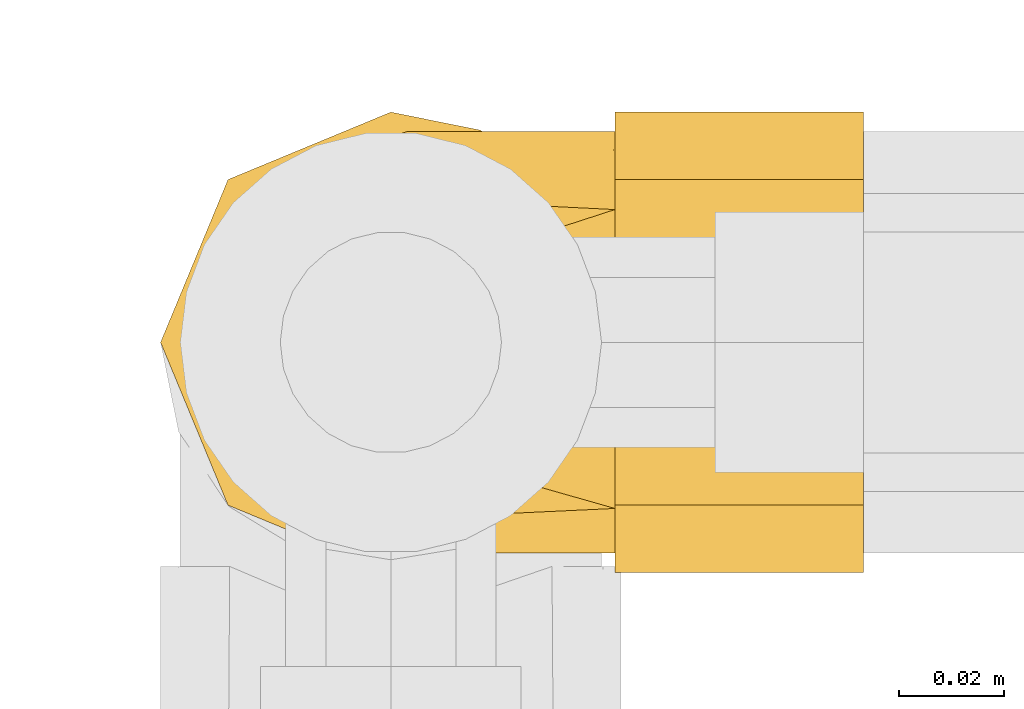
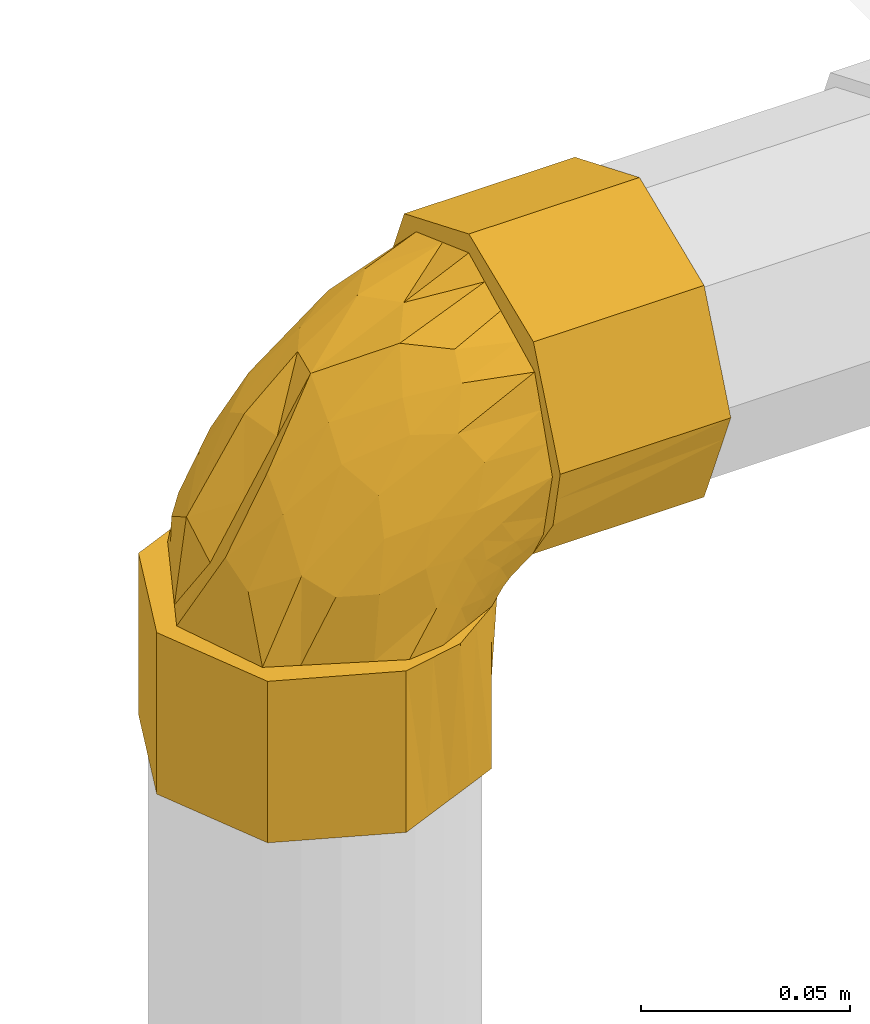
# One storey, part 251 of 652: 1 covering.
"""IFC2X3 building model written with IfcOpenShell, lengths in millimetres."""

from ifc_helpers import new_model, entity, si_unit, converted_unit, direction, frame, origin, place, context, subcontext, project, spatial, faceted_brep, material, type_object, element, save


model = new_model("IFC2X3")

# Units and contexts
model_context = context("Model", 3, precision=0.01, world=frame((0.0, 0.0, 308426.39999999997)), true_north=direction((6.123233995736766e-17, 1.0)))
plan_context = context("Plan", 3, precision=0.01, world=frame((0.0, 0.0, 308426.39999999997)), true_north=direction((6.123233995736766e-17, 1.0)))
body_context = subcontext(model_context, "Body", "Model", "MODEL_VIEW")
ifc_project = project(units=[si_unit("LENGTHUNIT", "METRE", prefix="MILLI"), si_unit("AREAUNIT", "SQUARE_METRE"), si_unit("VOLUMEUNIT", "CUBIC_METRE"), converted_unit("PLANEANGLEUNIT", "DEGREE", entity("IfcPlaneAngleMeasure", 0.017453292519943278), si_unit("PLANEANGLEUNIT", "RADIAN"), dimensions=[0, 0, 0, 0, 0, 0, 0])], contexts=[model_context, plan_context])

# Site, building, storey
site_placement = place(None, origin())
site = spatial("IfcSite", under=ifc_project, at=site_placement, Name="Default", CompositionType="ELEMENT")
building_placement = place(site_placement, origin())
building = spatial("IfcBuilding", under=site, at=building_placement, CompositionType="ELEMENT")
storey_placement = place(building_placement, frame((0.0, 0.0, 1730.6999999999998)))
storey = spatial("IfcBuildingStorey", under=building, at=storey_placement, Name="EG_Produktion_FFB", CompositionType="ELEMENT", Elevation=1730.6999999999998)

# Covering
ifc_material = material(Name="Dämmung - Armaflex-Schlauch")
covering_type = type_object("IfcCoveringType", Name="Rohrdämmung außen:Armaflex-Schlauch", PredefinedType="INSULATION")
covering_placement = place(storey_placement, frame((78684.6847277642, 51592.713081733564, 3510.2800000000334)))
element("IfcCovering", 1, at=covering_placement, inside=storey, type_object=covering_type, material=ifc_material, Name="Rohrdämmung außen:Armaflex-Schlauch", ObjectType="Rohrdämmung außen:Armaflex-Schlauch", PredefinedType="INSULATION", context=body_context, shape_type="Brep", body=[
    faceted_brep([(45.31527223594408, 1.5952722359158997, 47.18000000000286), (53.79016348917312, 3.3049417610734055, 47.18000000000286), (62.26505474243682, 5.014611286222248, 47.18000000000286), (69.4070792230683, 9.868813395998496, 47.18000000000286), (76.54910370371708, 14.723015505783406, 47.18000000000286), (67.43551000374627, 10.581665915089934, 47.18000000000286), (58.32191630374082, 6.440316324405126, 47.18000000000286), (48.321763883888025, 5.31527223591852, 47.18000000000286), (40.633175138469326, 8.855811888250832, 47.18000000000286), (32.944586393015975, 12.396351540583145, 47.18000000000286), (24.59523826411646, 16.24116612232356, 47.18000000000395), (16.24589013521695, 20.085980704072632, 47.18000000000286), (11.677312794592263, 32.70062646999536, 47.18000000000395), (7.108735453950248, 45.31527223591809, 47.18000000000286), (11.033237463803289, 53.194816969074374, 47.18000000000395), (14.95773947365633, 61.074361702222, 47.18000000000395), (18.882241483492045, 68.95390643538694, 47.18000000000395), (22.80674349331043, 76.83345116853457, 47.18000000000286), (32.05805035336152, 79.90881337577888, 47.18000000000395), (40.189907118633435, 82.61204280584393, 47.18000000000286), (48.321763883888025, 85.31527223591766, 47.18000000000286), (52.0796897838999, 84.47655416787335, 47.18000000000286), (55.837615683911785, 83.63783609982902, 47.18000000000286), (61.84796091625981, 82.29640860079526, 47.18000000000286), (67.85830614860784, 80.95498110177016, 47.18000000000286), (76.54910370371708, 75.90752896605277, 47.18000000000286), (69.4070792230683, 80.76173107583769, 47.18000000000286), (62.26505474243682, 85.61593318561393, 47.18000000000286), (53.79016348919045, 87.32560271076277, 47.18000000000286), (45.31527223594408, 89.03527223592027, 47.18000000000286), (36.91076329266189, 85.55401064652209, 47.18000000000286), (29.857917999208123, 82.63262647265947, 47.18000000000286), (22.129240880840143, 79.43130359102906, 47.18000000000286), (14.40056376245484, 76.22998070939, 47.18000000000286), (11.199240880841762, 68.50130359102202, 47.18000000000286), (7.997917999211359, 60.772626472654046, 47.18000000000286), (5.076533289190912, 53.719779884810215, 47.18000000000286), (1.5952722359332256, 45.31527223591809, 47.18000000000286), (5.076533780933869, 36.91076339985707, 47.18000000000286), (7.997917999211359, 29.857917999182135, 47.18000000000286), (11.199240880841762, 22.129240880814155, 47.18000000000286), (14.40056376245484, 14.400563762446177, 47.18000000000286), (22.129240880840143, 11.199240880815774, 47.18000000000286), (29.857917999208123, 7.997917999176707, 47.18000000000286), (36.910764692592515, 5.076533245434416, 47.18000000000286), (76.22998070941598, 76.22998070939, 0.0), (79.43130359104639, 68.50130359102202, 0.0), (82.63262647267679, 60.772626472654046, 0.0), (85.8339493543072, 53.04394935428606, 0.0), (89.0352722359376, 45.31527223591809, 0.0), (85.55401125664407, 36.910764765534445, 0.0), (82.63262647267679, 29.857917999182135, 0.0), (79.43130359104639, 22.129240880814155, 0.0), (76.22998070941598, 14.400563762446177, 0.0), (68.50130359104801, 11.199240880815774, 0.0), (60.77262647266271, 7.997917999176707, 0.0), (53.043949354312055, 4.796595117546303, 0.0), (45.31527223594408, 1.5952722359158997, 0.0), (37.5865951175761, 4.796595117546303, 0.0), (29.857917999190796, 7.997917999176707, 0.0), (22.129240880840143, 11.19924088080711, 0.0), (14.40056376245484, 14.400563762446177, 0.0), (11.199240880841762, 22.129240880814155, 0.0), (7.9979179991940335, 29.85791799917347, 0.0), (4.796595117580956, 37.58659511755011, 0.0), (1.5952722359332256, 45.31527223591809, 0.0), (4.796595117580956, 53.04394935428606, 0.0), (7.997917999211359, 60.772626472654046, 0.0), (11.199240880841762, 68.50130359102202, 0.0), (14.40056376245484, 76.22998070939, 0.0), (21.453408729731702, 79.15136474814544, 0.0), (28.506253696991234, 82.07274878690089, 0.0), (36.91076296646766, 85.55401051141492, 0.0), (45.31527223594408, 89.03527223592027, 0.0), (53.71977982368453, 85.55401120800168, 0.0), (60.77262647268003, 82.63262647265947, 0.0), (68.50130359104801, 79.43130359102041, 0.0), (89.0352722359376, 45.31527223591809, 40.28038015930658), (86.84897286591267, 58.967748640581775, 41.33169831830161), (81.69903828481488, 67.43763880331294, 44.2558491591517), (86.62452082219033, 35.33597719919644, 41.4695585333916), (84.2137694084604, 25.356682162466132, 42.65873690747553), (80.38143655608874, 20.03984883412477, 44.919368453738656), (87.85527223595, 1.5952722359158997, 89.72000000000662), (87.85527223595, 5.0765335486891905, 98.1245082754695), (87.85527223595, 7.997917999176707, 105.17735423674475), (87.85527223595, 11.19924088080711, 112.90603135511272), (87.85527223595, 14.400563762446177, 120.63470847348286), (87.85527223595, 22.129240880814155, 123.83603135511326), (87.85527223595, 29.857917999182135, 127.03735423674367), (87.85527223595, 36.91076472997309, 129.95873900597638), (87.85527223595, 45.31527223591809, 133.44000000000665), (87.85527223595, 53.71978088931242, 129.95873853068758), (87.85527223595, 60.772626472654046, 127.03735423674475), (87.85527223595, 68.50130359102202, 123.83603135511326), (87.85527223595, 76.22998070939, 120.63470847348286), (87.85527223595, 79.43130359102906, 112.9060313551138), (87.85527223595, 82.63262647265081, 105.17735423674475), (87.85527223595, 85.55401103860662, 98.12450799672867), (87.85527223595, 89.03527223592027, 89.72000000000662), (87.85527223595, 87.32560271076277, 81.24510874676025), (87.85527223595, 85.61593318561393, 72.77021749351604), (87.85527223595, 80.76173107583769, 65.62819301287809), (87.85527223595, 75.90752896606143, 58.48616853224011), (87.85527223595, 80.04887855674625, 67.59976223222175), (87.85527223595, 84.19022814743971, 76.71335593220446), (87.85527223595, 85.31527223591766, 86.71350835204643), (87.85527223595, 81.77341663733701, 94.40127311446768), (87.85527223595, 78.23156103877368, 102.08903787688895), (87.85527223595, 74.3823350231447, 110.44396463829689), (87.85527223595, 70.53310900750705, 118.79889139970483), (87.85527223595, 57.92419062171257, 123.36271409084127), (87.85527223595, 45.31527223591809, 127.92653678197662), (87.85527223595, 37.664481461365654, 124.11404686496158), (87.85527223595, 30.013690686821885, 120.30155694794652), (87.85527223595, 21.900530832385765, 116.25866242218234), (87.85527223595, 13.78737097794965, 112.21576789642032), (87.85527223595, 10.718682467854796, 102.97856549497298), (87.85527223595, 8.016977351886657, 94.84603692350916), (87.85527223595, 5.31527223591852, 86.71350835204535), (87.85527223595, 6.153990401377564, 82.95558201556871), (87.85527223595, 6.992708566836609, 79.19765567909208), (87.85527223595, 8.334135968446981, 73.1873108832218), (87.85527223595, 9.675563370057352, 67.17696608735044), (87.85527223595, 14.723015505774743, 58.48616853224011), (87.85527223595, 9.868813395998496, 65.62819301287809), (87.85527223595, 5.014611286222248, 72.77021749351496), (87.85527223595, 3.3049417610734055, 81.24510874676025), (135.03527223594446, 85.83394935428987, 97.44867711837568), (135.03527223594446, 82.63262647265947, 105.17735423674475), (135.03527223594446, 79.43130359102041, 112.9060313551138), (135.03527223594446, 76.22998070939, 120.63470847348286), (135.03527223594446, 69.1771356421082, 123.55609255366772), (135.03527223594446, 62.12429057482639, 126.47747663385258), (135.03527223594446, 53.71978140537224, 129.9587383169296), (135.03527223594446, 45.31527223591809, 133.44000000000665), (135.03527223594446, 37.58659511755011, 130.23867711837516), (135.03527223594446, 29.857917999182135, 127.03735423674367), (135.03527223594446, 22.129240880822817, 123.83603135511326), (135.03527223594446, 14.400563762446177, 120.63470847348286), (135.03527223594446, 11.47917926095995, 113.58186238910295), (135.03527223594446, 8.557794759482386, 106.52901630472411), (135.03527223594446, 5.076533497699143, 98.12450815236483), (135.03527223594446, 1.5952722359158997, 89.72000000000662), (135.03527223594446, 5.076533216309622, 81.3154925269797), (135.03527223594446, 7.997917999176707, 74.2626457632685), (135.03527223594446, 11.19924088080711, 66.53396864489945), (135.03527223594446, 14.400563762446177, 58.805291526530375), (135.03527223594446, 22.129240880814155, 55.60396864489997), (135.03527223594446, 29.857917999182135, 52.40264576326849), (135.03527223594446, 37.58659511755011, 49.201322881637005), (135.03527223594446, 45.31527223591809, 46.0), (135.03527223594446, 53.719779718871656, 49.48126098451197), (135.03527223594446, 60.772626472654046, 52.40264576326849), (135.03527223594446, 68.50130359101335, 55.60396864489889), (135.03527223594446, 76.22998070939, 58.805291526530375), (135.03527223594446, 79.43130359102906, 66.53396864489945), (135.03527223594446, 82.63262647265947, 74.2626457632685), (135.03527223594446, 85.55401051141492, 81.31549073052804), (135.03527223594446, 89.03527223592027, 89.72000000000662), (93.56571370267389, 55.2945672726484, 48.4107514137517), (94.75489207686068, 45.31527223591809, 46.0), (92.37653532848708, 65.27386230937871, 50.82150282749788), (90.11590378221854, 70.59069563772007, 54.65383567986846), (93.70357391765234, 31.662795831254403, 48.186299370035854), (90.7794230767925, 23.192905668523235, 53.336233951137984), (32.53527574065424, 77.86164217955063, 69.00287237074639), (51.425683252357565, 82.84333563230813, 79.27054159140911), (39.731028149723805, 82.52571010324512, 64.27994292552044), (63.426296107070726, 84.62314249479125, 81.73250255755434), (75.5975965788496, 85.31527223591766, 79.20442983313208), (73.80742095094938, 85.31527223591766, 78.1077643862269), (68.57367093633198, 85.31527223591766, 74.90155785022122), (63.339920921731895, 85.31527223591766, 71.69535131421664), (51.36097134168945, 84.76597274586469, 67.73111580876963), (17.62623254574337, 66.04393126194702, 62.91092344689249), (23.170981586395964, 72.21576937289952, 64.29183882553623), (64.1846355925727, 71.70335242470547, 109.23539302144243), (67.50192105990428, 78.22647757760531, 102.70172056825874), (51.231426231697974, 62.805395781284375, 108.27293498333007), (70.50205881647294, 64.89836080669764, 117.48258301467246), (44.59903754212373, 75.71969372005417, 89.7102266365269), (32.36832108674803, 73.0182205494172, 79.39277649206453), (40.15717253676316, 68.31990983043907, 94.78970943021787), (54.49596697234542, 79.98473406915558, 90.62380762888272), (16.362071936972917, 45.31527223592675, 62.39077147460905), (15.713991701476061, 55.58671597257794, 69.80994806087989), (45.978453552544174, 54.75320189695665, 108.03177862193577), (62.85090953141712, 55.288901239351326, 118.28560003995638), (68.05273628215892, 82.65219825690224, 93.40132818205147), (25.709525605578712, 66.95426120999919, 77.92832688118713), (31.70820229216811, 55.48659895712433, 94.49747186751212), (31.729822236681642, 62.62410297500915, 90.48686475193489), (44.122081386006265, 45.31527223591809, 108.02308589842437), (69.82443573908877, 45.31527223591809, 119.72050695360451), (25.615408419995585, 45.31527223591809, 77.60154294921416), (34.86874490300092, 45.31527223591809, 92.81231442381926), (80.8313465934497, 85.31527223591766, 82.41063636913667), (60.13371407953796, 85.31527223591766, 66.46160079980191), (56.927507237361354, 85.31527223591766, 61.22785028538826), (52.62463556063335, 85.31527223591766, 54.20392514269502), (50.47319972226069, 85.31527223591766, 50.691962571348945), (78.77641040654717, 84.11551811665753, 71.72947387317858), (72.99735377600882, 84.10693973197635, 67.36010628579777), (64.92960904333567, 83.79173661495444, 56.520127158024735), (66.80037174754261, 84.67911960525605, 65.04087912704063), (72.04093677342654, 82.61861058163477, 59.90607442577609), (80.24278960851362, 81.34638912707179, 63.431363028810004), (91.62419216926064, 45.31527223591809, 43.41108006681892), (86.200199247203, 69.27986326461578, 49.26110762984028), (79.89085022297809, 77.75187936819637, 55.14442212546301), (70.89843278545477, 81.12154294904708, 53.032861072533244), (75.12919765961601, 8.011933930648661, 62.994335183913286), (71.60390875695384, 9.284155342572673, 54.79248203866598), (79.89084929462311, 12.878664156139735, 55.14442305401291), (56.92750723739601, 5.31527223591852, 61.22785028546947), (55.83084240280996, 5.31527223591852, 59.43767565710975), (52.62463556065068, 5.31527223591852, 54.20392514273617), (85.77416463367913, 21.350681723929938, 48.83507246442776), (82.00241115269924, 9.509001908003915, 64.13683850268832), (78.51514579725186, 6.838807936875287, 70.10566333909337), (67.67516617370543, 6.523604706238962, 62.03791892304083), (69.99439375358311, 5.951424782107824, 68.23490171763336), (63.339920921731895, 5.31527223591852, 71.69535131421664), (63.30579864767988, 6.515026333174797, 56.25886243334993), (60.13371407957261, 5.31527223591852, 66.46160079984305), (84.34330941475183, 5.31527223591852, 84.56207236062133), (80.83134659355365, 5.31527223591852, 82.41063636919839), (73.80742095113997, 5.31527223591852, 78.10776438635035), (68.57367093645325, 5.31527223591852, 74.90155785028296), (70.51865502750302, 18.716447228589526, 112.06272967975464), (72.14354849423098, 24.918359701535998, 117.62981658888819), (57.146839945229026, 23.797144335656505, 109.44097839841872), (41.3732413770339, 31.915050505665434, 102.73486486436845), (40.15392129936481, 23.594505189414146, 96.00640061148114), (15.362731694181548, 36.271351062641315, 69.7757408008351), (62.15626531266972, 33.85195429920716, 117.47983892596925), (53.30419603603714, 6.007022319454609, 71.60753660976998), (41.63422557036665, 7.977727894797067, 66.97986259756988), (55.76616792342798, 7.785872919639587, 83.60598780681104), (44.41565800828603, 10.643004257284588, 80.53671556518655), (70.75443260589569, 8.104982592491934, 95.30418854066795), (67.29968029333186, 5.8643133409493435, 83.66921531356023), (45.329151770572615, 14.905829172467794, 90.43203242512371), (66.03128380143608, 12.764668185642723, 102.4926207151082), (55.65510988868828, 17.67010013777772, 102.74278789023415), (26.255526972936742, 18.662195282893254, 71.20903818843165), (32.06723242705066, 12.346778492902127, 66.84410548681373), (26.490988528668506, 27.95946128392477, 83.52574882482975), (16.58661171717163, 27.50450455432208, 64.64552317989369), (27.442432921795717, 37.0260868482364, 90.05399086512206)], [[[0, 1, 2, 3, 4, 5, 6, 7, 8, 9, 10, 11, 12, 13, 14, 15, 16, 17, 18, 19, 20, 21, 22, 23, 24, 25, 26, 27, 28, 29, 30, 31, 32, 33, 34, 35, 36, 37, 38, 39, 40, 41, 42, 43, 44]], [[45, 46, 47, 48, 49, 50, 51, 52, 53, 54, 55, 56, 57, 58, 59, 60, 61, 62, 63, 64, 65, 66, 67, 68, 69, 70, 71, 72, 73, 74, 75, 76]], [[74, 27, 76, 75]], [[77, 48, 78]], [[78, 47, 79]], [[48, 77, 49]], [[25, 79, 46]], [[27, 74, 28]], [[45, 26, 25]], [[48, 47, 78]], [[73, 28, 74]], [[73, 29, 28]], [[76, 27, 26]], [[26, 45, 76]], [[25, 46, 45]], [[79, 47, 46]], [[30, 29, 73, 72, 71, 70, 69, 33, 32, 31]], [[33, 69, 68, 67, 66, 65, 37, 36, 35, 34]], [[0, 44, 43, 42, 41, 61, 60, 59, 58, 57]], [[63, 62, 61, 41, 40, 39, 38, 37, 65, 64]], [[3, 54, 53]], [[57, 56, 0]], [[80, 51, 50]], [[55, 2, 1]], [[55, 54, 2]], [[52, 81, 82, 4]], [[50, 77, 80]], [[2, 54, 3]], [[1, 56, 55]], [[53, 4, 3]], [[51, 80, 81]], [[0, 56, 1]], [[50, 49, 77]], [[52, 4, 53]], [[52, 51, 81]], [[83, 84, 85, 86, 87, 88, 89, 90, 91, 92, 93, 94, 95, 96, 97, 98, 99, 100, 101, 102, 103, 104, 105, 106, 107, 108, 109, 110, 111, 112, 113, 114, 115, 116, 117, 118, 119, 120, 121, 122, 123, 124, 125, 126, 127]], [[128, 129, 130, 131, 132, 133, 134, 135, 136, 137, 138, 139, 140, 141, 142, 143, 144, 145, 146, 147, 148, 149, 150, 151, 152, 153, 154, 155, 156, 157, 158, 159]], [[133, 132, 131, 95, 94, 93, 92, 91, 135, 134]], [[95, 131, 130, 129, 128, 159, 99, 98, 97, 96]], [[102, 156, 155]], [[160, 153, 152]], [[99, 159, 100]], [[157, 156, 101, 158]], [[158, 101, 100]], [[152, 161, 160]], [[101, 156, 102]], [[154, 162, 163, 103]], [[155, 103, 102]], [[153, 160, 162]], [[159, 158, 100]], [[152, 151, 161]], [[154, 103, 155]], [[154, 153, 162]], [[125, 147, 146]], [[143, 83, 127]], [[161, 150, 164]], [[164, 149, 165]], [[150, 161, 151]], [[147, 125, 124]], [[126, 144, 127]], [[146, 145, 144, 126]], [[124, 148, 147]], [[143, 127, 144]], [[150, 149, 164]], [[146, 126, 125]], [[124, 165, 148]], [[165, 149, 148]], [[84, 83, 143, 142, 141, 140, 139, 87, 86, 85]], [[87, 139, 138, 137, 136, 135, 91, 90, 89, 88]], [[166, 167, 168]], [[169, 170, 171, 172, 173]], [[19, 168, 174]], [[17, 166, 18]], [[175, 176, 16]], [[177, 109, 178]], [[179, 180, 177]], [[181, 182, 183]], [[166, 181, 184]], [[14, 185, 186]], [[187, 188, 179]], [[184, 189, 167]], [[182, 181, 166]], [[176, 175, 190]], [[186, 191, 192]], [[166, 184, 167]], [[169, 174, 167]], [[188, 193, 194]], [[110, 109, 177]], [[190, 175, 186]], [[175, 16, 15]], [[186, 175, 15]], [[176, 190, 182]], [[186, 15, 14]], [[186, 195, 191]], [[196, 193, 187]], [[179, 183, 192]], [[184, 178, 189]], [[191, 195, 196]], [[178, 109, 108]], [[183, 177, 181]], [[178, 108, 189]], [[181, 177, 178]], [[189, 108, 107]], [[107, 106, 197, 170]], [[170, 169, 107]], [[169, 173, 174]], [[167, 189, 169]], [[107, 169, 189]], [[174, 173, 198, 199, 200, 201, 20]], [[174, 20, 19]], [[168, 19, 18]], [[166, 168, 18]], [[174, 168, 167]], [[111, 180, 188]], [[110, 177, 180]], [[194, 112, 111]], [[178, 184, 181]], [[188, 180, 179]], [[111, 110, 180]], [[179, 191, 187]], [[111, 188, 194]], [[187, 191, 196]], [[193, 188, 187]], [[192, 183, 190]], [[177, 183, 179]], [[166, 17, 176]], [[183, 182, 190]], [[166, 176, 182]], [[17, 16, 176]], [[185, 14, 13]], [[185, 195, 186]], [[186, 192, 190]], [[179, 192, 191]], [[172, 202, 203]], [[204, 205, 206]], [[23, 22, 21, 20, 201, 200, 199]], [[202, 104, 207]], [[208, 77, 78]], [[203, 173, 172]], [[203, 202, 207]], [[105, 104, 202]], [[163, 162, 209]], [[203, 205, 173]], [[197, 106, 105, 171, 170]], [[207, 206, 203]], [[210, 207, 103]], [[104, 103, 207]], [[160, 161, 208]], [[210, 163, 209]], [[206, 207, 210]], [[210, 25, 211]], [[204, 211, 24]], [[209, 25, 210]], [[78, 79, 25, 209]], [[105, 202, 171]], [[210, 103, 163]], [[78, 209, 162]], [[205, 203, 206]], [[172, 171, 202]], [[206, 211, 204]], [[204, 198, 205]], [[204, 24, 23]], [[210, 211, 206]], [[199, 204, 23]], [[198, 204, 199]], [[198, 173, 205]], [[25, 24, 211]], [[78, 160, 208]], [[78, 162, 160]], [[212, 213, 214]], [[6, 215, 216, 217, 7]], [[82, 218, 214]], [[219, 123, 220]], [[214, 213, 4]], [[5, 4, 213]], [[221, 222, 223]], [[208, 80, 77]], [[218, 124, 214]], [[161, 164, 208]], [[214, 124, 219]], [[6, 5, 224]], [[82, 81, 218]], [[224, 5, 213]], [[225, 224, 221]], [[220, 222, 212]], [[122, 121, 120, 119, 226, 227, 228]], [[164, 165, 124, 218]], [[221, 223, 225]], [[213, 212, 221]], [[221, 224, 213]], [[6, 224, 215]], [[214, 4, 82]], [[164, 218, 81]], [[222, 221, 212]], [[225, 215, 224]], [[212, 219, 220]], [[220, 229, 222]], [[220, 123, 122]], [[214, 219, 212]], [[228, 220, 122]], [[229, 220, 228]], [[229, 223, 222]], [[124, 123, 219]], [[164, 80, 208]], [[164, 81, 80]], [[230, 115, 231]], [[232, 233, 234]], [[12, 235, 13]], [[113, 194, 236]], [[237, 216, 215, 225, 223]], [[236, 232, 231]], [[238, 239, 240]], [[230, 231, 232]], [[118, 241, 242]], [[243, 244, 245]], [[246, 10, 247]], [[116, 244, 117]], [[244, 243, 240]], [[244, 239, 241]], [[248, 249, 246]], [[247, 238, 240]], [[237, 242, 239]], [[232, 236, 233]], [[250, 193, 196, 195]], [[113, 236, 114]], [[233, 248, 234]], [[113, 112, 194]], [[193, 236, 194]], [[236, 193, 233]], [[233, 250, 248]], [[231, 115, 114]], [[248, 250, 235]], [[248, 235, 249]], [[235, 250, 195]], [[235, 195, 185, 13]], [[235, 12, 249]], [[12, 11, 249]], [[246, 249, 11]], [[10, 9, 247]], [[234, 246, 243]], [[246, 234, 248]], [[245, 234, 243]], [[246, 11, 10]], [[247, 9, 238]], [[243, 246, 247]], [[238, 9, 8]], [[8, 7, 217, 216]], [[216, 237, 8]], [[237, 223, 242]], [[239, 238, 237]], [[8, 237, 238]], [[242, 223, 229, 228, 227, 226, 119]], [[242, 119, 118]], [[241, 118, 117]], [[244, 241, 117]], [[242, 241, 239]], [[244, 240, 239]], [[247, 240, 243]], [[193, 250, 233]], [[236, 231, 114]], [[230, 232, 245]], [[244, 116, 230]], [[234, 245, 232]], [[244, 230, 245]], [[116, 115, 230]]]),
])

save(model, "model.ifc")
